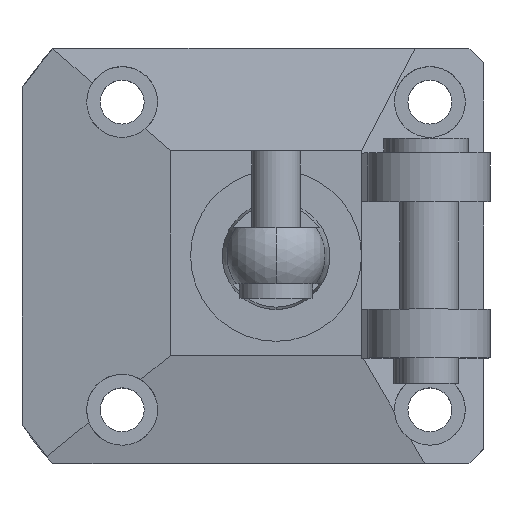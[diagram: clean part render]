
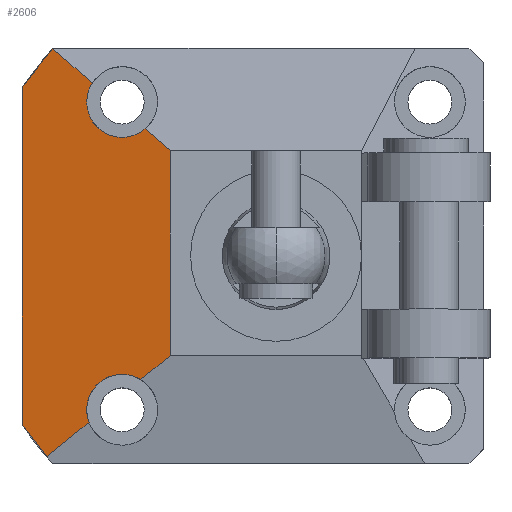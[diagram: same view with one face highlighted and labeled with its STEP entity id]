
A CAD part, top view. The second image highlights one B-rep face of the part: STEP entity #2606.
In plain terms, the highlighted planar face has unit normal (-0.172, 0, 0.985).
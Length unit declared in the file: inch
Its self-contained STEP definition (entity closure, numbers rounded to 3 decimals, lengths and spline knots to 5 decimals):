
#51 = CARTESIAN_POINT ( 'NONE',  ( -1.48096, 1.39342, 3.23683 ) ) ;
#107 = EDGE_CURVE ( 'NONE', #2888, #1090, #553, .T. ) ;
#250 = EDGE_CURVE ( 'NONE', #1457, #3282, #570, .T. ) ;
#269 = CARTESIAN_POINT ( 'NONE',  ( -0.85337, -0.80369, 3.34646 ) ) ;
#282 = CARTESIAN_POINT ( 'NONE',  ( -1.52559, -1.2747, 3.22904 ) ) ;
#294 =( BOUNDED_CURVE ( )  B_SPLINE_CURVE ( 3, ( #574, #2283, #2584, #3133 ),
 .UNSPECIFIED., .F., .T. ) 
 B_SPLINE_CURVE_WITH_KNOTS ( ( 4, 4 ),
 ( 0.86462, 3.14159 ),
 .UNSPECIFIED. ) 
 CURVE ( )  GEOMETRIC_REPRESENTATION_ITEM ( )  RATIONAL_B_SPLINE_CURVE ( ( 1., 0.613, 0.613, 1. ) ) 
 REPRESENTATION_ITEM ( '' )  );
#340 = CARTESIAN_POINT ( 'NONE',  ( -2.04724, 1.35695, 3.13791 ) ) ;
#378 = EDGE_CURVE ( 'NONE', #2162, #3282, #3030, .T. ) ;
#403 =( BOUNDED_CURVE ( )  B_SPLINE_CURVE ( 3, ( #3558, #2505, #3611, #1093 ),
 .UNSPECIFIED., .F., .F. ) 
 B_SPLINE_CURVE_WITH_KNOTS ( ( 4, 4 ),
 ( 3.14159, 3.70839 ),
 .UNSPECIFIED. ) 
 CURVE ( )  GEOMETRIC_REPRESENTATION_ITEM ( )  RATIONAL_B_SPLINE_CURVE ( ( 1., 0.973, 0.973, 1. ) ) 
 REPRESENTATION_ITEM ( '' )  );
#417 = DIRECTION ( 'NONE',  ( -0.766, -0.629, -0.134 ) ) ;
#469 = CARTESIAN_POINT ( 'NONE',  ( -2.04724, -1.67323, 3.13791 ) ) ;
#502 = FACE_OUTER_BOUND ( 'NONE', #1438, .T. ) ;
#521 = CARTESIAN_POINT ( 'NONE',  ( -0.80154, 2.9685, 3.35551 ) ) ;
#540 = LINE ( 'NONE', #3317, #2743 ) ;
#553 = LINE ( 'NONE', #3132, #909 ) ;
#570 =( BOUNDED_CURVE ( )  B_SPLINE_CURVE ( 3, ( #2335, #2353, #2665, #340 ),
 .UNSPECIFIED., .F., .F. ) 
 B_SPLINE_CURVE_WITH_KNOTS ( ( 4, 4 ),
 ( 2.3934, 2.55626 ),
 .UNSPECIFIED. ) 
 CURVE ( )  GEOMETRIC_REPRESENTATION_ITEM ( )  RATIONAL_B_SPLINE_CURVE ( ( 1., 0.998, 0.998, 1. ) ) 
 REPRESENTATION_ITEM ( '' )  );
#574 = CARTESIAN_POINT ( 'NONE',  ( -1.05493, 1.02299, 3.31125 ) ) ;
#589 = VERTEX_POINT ( 'NONE', #51 ) ;
#592 = ORIENTED_EDGE ( 'NONE', *, *, #3526, .F. ) ;
#612 = DIRECTION ( 'NONE',  ( 0.748, -0.651, 0.131 ) ) ;
#613 = CARTESIAN_POINT ( 'NONE',  ( -1.52559, -1.24016, 3.22904 ) ) ;
#640 = EDGE_CURVE ( 'NONE', #1766, #1267, #2940, .T. ) ;
#752 = VERTEX_POINT ( 'NONE', #1878 ) ;
#767 = CARTESIAN_POINT ( 'NONE',  ( -1.84636, -1.61972, 3.173 ) ) ;
#822 = CARTESIAN_POINT ( 'NONE',  ( -1.98624, -1.44899, 3.14857 ) ) ;
#893 = CARTESIAN_POINT ( 'NONE',  ( -1.51939, -1.30868, 3.23012 ) ) ;
#909 = VECTOR ( 'NONE', #612, 39.37008 ) ;
#915 = VECTOR ( 'NONE', #2415, 39.37008 ) ;
#935 = ORIENTED_EDGE ( 'NONE', *, *, #378, .F. ) ;
#946 = ORIENTED_EDGE ( 'NONE', *, *, #1779, .T. ) ;
#1060 = CARTESIAN_POINT ( 'NONE',  ( -1.80013, 1.67094, 3.18108 ) ) ;
#1090 = VERTEX_POINT ( 'NONE', #2604 ) ;
#1093 = CARTESIAN_POINT ( 'NONE',  ( -1.48096, 1.39342, 3.23683 ) ) ;
#1227 = VERTEX_POINT ( 'NONE', #1300 ) ;
#1264 = CARTESIAN_POINT ( 'NONE',  ( -2.04724, 1.35695, 3.13791 ) ) ;
#1265 = VECTOR ( 'NONE', #417, 39.37008 ) ;
#1267 = VERTEX_POINT ( 'NONE', #3279 ) ;
#1292 = ORIENTED_EDGE ( 'NONE', *, *, #1738, .T. ) ;
#1300 = CARTESIAN_POINT ( 'NONE',  ( -1.84636, -1.61972, 3.173 ) ) ;
#1326 =( BOUNDED_CURVE ( )  B_SPLINE_CURVE ( 3, ( #3296, #822, #2163, #767 ),
 .UNSPECIFIED., .F., .F. ) 
 B_SPLINE_CURVE_WITH_KNOTS ( ( 4, 4 ),
 ( 3.72693, 3.8617 ),
 .UNSPECIFIED. ) 
 CURVE ( )  GEOMETRIC_REPRESENTATION_ITEM ( )  RATIONAL_B_SPLINE_CURVE ( ( 1., 0.998, 0.998, 1. ) ) 
 REPRESENTATION_ITEM ( '' )  );
#1349 = CARTESIAN_POINT ( 'NONE',  ( -1.30441, -0.86415, 3.26767 ) ) ;
#1396 = CARTESIAN_POINT ( 'NONE',  ( -0.85337, 0., 3.34646 ) ) ;
#1438 = EDGE_LOOP ( 'NONE', ( #2133, #946, #3607, #2956, #2160, #3124, #3626, #1292, #592, #2037, #935, #2787 ) ) ;
#1457 = VERTEX_POINT ( 'NONE', #1060 ) ;
#1633 = PLANE ( 'NONE',  #2265 ) ;
#1669 = DIRECTION ( 'NONE',  ( -0.766, -0.629, -0.134 ) ) ;
#1713 =( BOUNDED_CURVE ( )  B_SPLINE_CURVE ( 3, ( #3643, #893, #282, #613 ),
 .UNSPECIFIED., .F., .F. ) 
 B_SPLINE_CURVE_WITH_KNOTS ( ( 4, 4 ),
 ( 2.78053, 3.14159 ),
 .UNSPECIFIED. ) 
 CURVE ( )  GEOMETRIC_REPRESENTATION_ITEM ( )  RATIONAL_B_SPLINE_CURVE ( ( 1., 0.989, 0.989, 1. ) ) 
 REPRESENTATION_ITEM ( '' )  );
#1738 = EDGE_CURVE ( 'NONE', #752, #589, #403, .T. ) ;
#1744 = EDGE_CURVE ( 'NONE', #2162, #1227, #1326, .T. ) ;
#1766 = VERTEX_POINT ( 'NONE', #3409 ) ;
#1779 = EDGE_CURVE ( 'NONE', #3448, #1766, #1713, .T. ) ;
#1842 = EDGE_CURVE ( 'NONE', #2586, #1090, #3116, .T. ) ;
#1846 = EDGE_CURVE ( 'NONE', #2888, #752, #294, .T. ) ;
#1878 = CARTESIAN_POINT ( 'NONE',  ( -1.52559, 1.24016, 3.22904 ) ) ;
#1894 = CARTESIAN_POINT ( 'NONE',  ( -1.08949, -0.99773, 3.30521 ) ) ;
#1954 = EDGE_CURVE ( 'NONE', #2586, #1267, #2086, .T. ) ;
#1970 = LINE ( 'NONE', #3098, #3277 ) ;
#2037 = ORIENTED_EDGE ( 'NONE', *, *, #250, .T. ) ;
#2086 = LINE ( 'NONE', #2119, #1265 ) ;
#2119 = CARTESIAN_POINT ( 'NONE',  ( 1.16782, 0.85731, 3.69951 ) ) ;
#2133 = ORIENTED_EDGE ( 'NONE', *, *, #2653, .F. ) ;
#2160 = ORIENTED_EDGE ( 'NONE', *, *, #1842, .T. ) ;
#2162 = VERTEX_POINT ( 'NONE', #2416 ) ;
#2163 = CARTESIAN_POINT ( 'NONE',  ( -1.91918, -1.53671, 3.16029 ) ) ;
#2167 = DIRECTION ( 'NONE',  ( -0.985, 0., -0.172 ) ) ;
#2265 = AXIS2_PLACEMENT_3D ( 'NONE', #521, #2809, #2167 ) ;
#2283 = CARTESIAN_POINT ( 'NONE',  ( -1.26951, 0.83997, 3.27377 ) ) ;
#2335 = CARTESIAN_POINT ( 'NONE',  ( -1.80013, 1.67094, 3.18108 ) ) ;
#2353 = CARTESIAN_POINT ( 'NONE',  ( -1.89095, 1.57311, 3.16522 ) ) ;
#2360 = CARTESIAN_POINT ( 'NONE',  ( -1.05493, 1.02299, 3.31125 ) ) ;
#2415 = DIRECTION ( 'NONE',  ( 0., 1., 0. ) ) ;
#2416 = CARTESIAN_POINT ( 'NONE',  ( -2.04724, -1.35695, 3.13791 ) ) ;
#2505 = CARTESIAN_POINT ( 'NONE',  ( -1.52559, 1.29482, 3.22904 ) ) ;
#2506 = DIRECTION ( 'NONE',  ( 0.748, -0.651, 0.131 ) ) ;
#2514 = VECTOR ( 'NONE', #2525, 39.37008 ) ;
#2525 = DIRECTION ( 'NONE',  ( 0., 1., 0. ) ) ;
#2584 = CARTESIAN_POINT ( 'NONE',  ( -1.52559, 0.95813, 3.22904 ) ) ;
#2586 = VERTEX_POINT ( 'NONE', #269 ) ;
#2604 = CARTESIAN_POINT ( 'NONE',  ( -0.85337, 0.84773, 3.34646 ) ) ;
#2606 = ADVANCED_FACE ( 'NONE', ( #502 ), #1633, .F. ) ;
#2653 = EDGE_CURVE ( 'NONE', #3448, #1227, #540, .T. ) ;
#2665 = CARTESIAN_POINT ( 'NONE',  ( -1.9735, 1.46822, 3.1508 ) ) ;
#2743 = VECTOR ( 'NONE', #1669, 39.37008 ) ;
#2787 = ORIENTED_EDGE ( 'NONE', *, *, #1744, .T. ) ;
#2809 = DIRECTION ( 'NONE',  ( 0.172, 0., -0.985 ) ) ;
#2888 = VERTEX_POINT ( 'NONE', #2360 ) ;
#2940 =( BOUNDED_CURVE ( )  B_SPLINE_CURVE ( 3, ( #3273, #2999, #1349, #1894 ),
 .UNSPECIFIED., .F., .T. ) 
 B_SPLINE_CURVE_WITH_KNOTS ( ( 4, 4 ),
 ( 3.14159, 5.26847 ),
 .UNSPECIFIED. ) 
 CURVE ( )  GEOMETRIC_REPRESENTATION_ITEM ( )  RATIONAL_B_SPLINE_CURVE ( ( 1., 0.657, 0.657, 1. ) ) 
 REPRESENTATION_ITEM ( '' )  );
#2956 = ORIENTED_EDGE ( 'NONE', *, *, #1954, .F. ) ;
#2999 = CARTESIAN_POINT ( 'NONE',  ( -1.52559, -0.9871, 3.22904 ) ) ;
#3030 = LINE ( 'NONE', #469, #915 ) ;
#3098 = CARTESIAN_POINT ( 'NONE',  ( 1.09765, -0.8487, 3.68726 ) ) ;
#3116 = LINE ( 'NONE', #1396, #2514 ) ;
#3124 = ORIENTED_EDGE ( 'NONE', *, *, #107, .F. ) ;
#3132 = CARTESIAN_POINT ( 'NONE',  ( 1.09765, -0.8487, 3.68726 ) ) ;
#3133 = CARTESIAN_POINT ( 'NONE',  ( -1.52559, 1.24016, 3.22904 ) ) ;
#3273 = CARTESIAN_POINT ( 'NONE',  ( -1.52559, -1.24016, 3.22904 ) ) ;
#3277 = VECTOR ( 'NONE', #2506, 39.37008 ) ;
#3279 = CARTESIAN_POINT ( 'NONE',  ( -1.08949, -0.99773, 3.30521 ) ) ;
#3282 = VERTEX_POINT ( 'NONE', #1264 ) ;
#3296 = CARTESIAN_POINT ( 'NONE',  ( -2.04724, -1.35695, 3.13791 ) ) ;
#3317 = CARTESIAN_POINT ( 'NONE',  ( 1.16782, 0.85731, 3.69951 ) ) ;
#3409 = CARTESIAN_POINT ( 'NONE',  ( -1.52559, -1.24016, 3.22904 ) ) ;
#3448 = VERTEX_POINT ( 'NONE', #3573 ) ;
#3526 = EDGE_CURVE ( 'NONE', #1457, #589, #1970, .T. ) ;
#3558 = CARTESIAN_POINT ( 'NONE',  ( -1.52559, 1.24016, 3.22904 ) ) ;
#3573 = CARTESIAN_POINT ( 'NONE',  ( -1.50719, -1.34099, 3.23225 ) ) ;
#3607 = ORIENTED_EDGE ( 'NONE', *, *, #640, .T. ) ;
#3611 = CARTESIAN_POINT ( 'NONE',  ( -1.51031, 1.3473, 3.23171 ) ) ;
#3626 = ORIENTED_EDGE ( 'NONE', *, *, #1846, .T. ) ;
#3643 = CARTESIAN_POINT ( 'NONE',  ( -1.50719, -1.34099, 3.23225 ) ) ;
